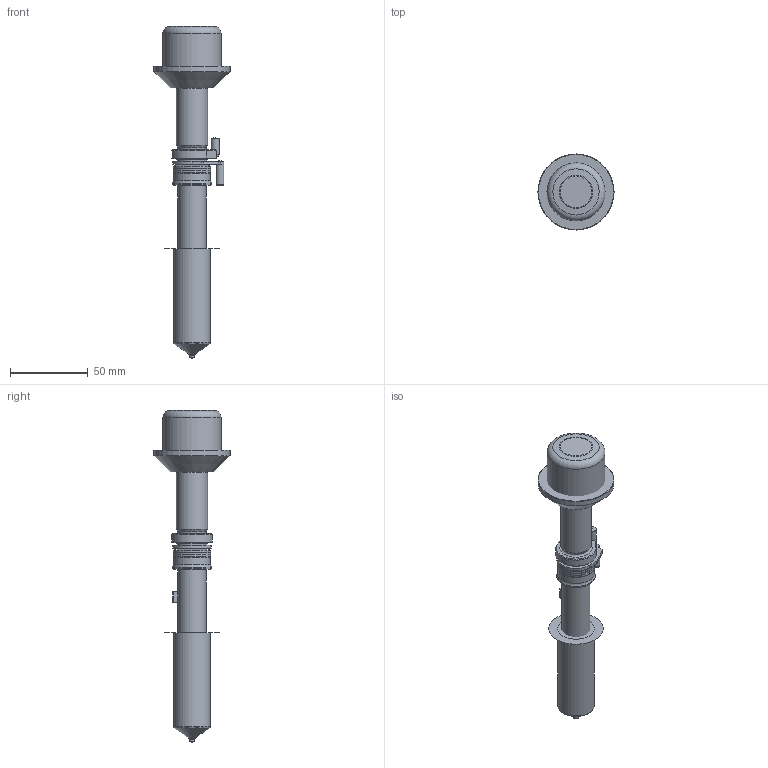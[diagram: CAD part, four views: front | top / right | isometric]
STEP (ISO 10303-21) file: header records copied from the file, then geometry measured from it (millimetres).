
FILE_DESCRIPTION(/* description */ (''),/* implementation_level */ '2;1');
FILE_NAME(/* name */ 'UH500 VG.stp',/* time_stamp */ '2021-12-24T16:18:54+08:00',/* author */ (''),/* organization */ (''),/* preprocessor_version */ 'ST-DEVELOPER v16',/* originating_system */ 'SIEMENS PLM Software NX 11.0',/* authorisation */ '');
FILE_SCHEMA (('AUTOMOTIVE_DESIGN { 1 0 10303 214 3 1 1 1 }'));
Length unit declared in the file: millimetre
Products named in the file (23): 3D_EXPORT_3D_ASSY_11314503_0_id119_x_t; 3D_EXPORT_3D_ASSY_11314503_0_id114_x_t; 3D_EXPORT_3D_ASSY_11314503_0_id109_x_t; 3D_EXPORT_3D_ASSY_11314503_0_id104_x_t; 3D_EXPORT_3D_ASSY_11314503_0_id99_x_t; 3D_EXPORT_3D_ASSY_11314503_0_id92_x_t; 3D_EXPORT_3D_ASSY_11314503_0_id87_x_t; 3D_EXPORT_3D_ASSY_11314503_0_id82_x_t; 3D_EXPORT_3D_ASSY_11314503_0_id77_x_t; 3D_EXPORT_3D_ASSY_11314503_0_id72_x_t; 3D_EXPORT_3D_ASSY_11314503_0_id67_x_t; 3D_EXPORT_3D_ASSY_11314503_0_id62_x_t; 3D_EXPORT_3D_ASSY_11314503_0_id55_x_t; 3D_EXPORT_3D_ASSY_11314503_0_id50_x_t; 3D_EXPORT_3D_ASSY_11314503_0_id45_x_t; 3D_EXPORT_3D_ASSY_11314503_0_id40_x_t; 3D_EXPORT_3D_ASSY_11314503_0_id31_x_t; 3D_EXPORT_3D_ASSY_11314503_0_id26_x_t; 3D_EXPORT_3D_ASSY_11314503_0_id21_x_t; 3D_EXPORT_3D_ASSY_11314503_0_id16_x_t; 3D_EXPORT_3D_ASSY_11314503_0_id11_x_t; 3D_EXPORT_3D_ASSY_11314503_0_id6_x_t; 3D_EXPORT_3D_ASSY_11314503_0_x_t
Assembly tree (26 placements, depth 2):
  3D_EXPORT_3D_ASSY_11314503_0_x_t
    3D_EXPORT_3D_ASSY_11314503_0_id6_x_t
    3D_EXPORT_3D_ASSY_11314503_0_id11_x_t
    3D_EXPORT_3D_ASSY_11314503_0_id16_x_t
    3D_EXPORT_3D_ASSY_11314503_0_id21_x_t
    3D_EXPORT_3D_ASSY_11314503_0_id26_x_t
    3D_EXPORT_3D_ASSY_11314503_0_id31_x_t  x3
    3D_EXPORT_3D_ASSY_11314503_0_id40_x_t
    3D_EXPORT_3D_ASSY_11314503_0_id45_x_t
    3D_EXPORT_3D_ASSY_11314503_0_id50_x_t
    3D_EXPORT_3D_ASSY_11314503_0_id55_x_t  x2
    3D_EXPORT_3D_ASSY_11314503_0_id62_x_t
    3D_EXPORT_3D_ASSY_11314503_0_id67_x_t
    3D_EXPORT_3D_ASSY_11314503_0_id72_x_t
    3D_EXPORT_3D_ASSY_11314503_0_id77_x_t
    3D_EXPORT_3D_ASSY_11314503_0_id82_x_t
    3D_EXPORT_3D_ASSY_11314503_0_id87_x_t
    3D_EXPORT_3D_ASSY_11314503_0_id92_x_t  x2
    3D_EXPORT_3D_ASSY_11314503_0_id99_x_t
    3D_EXPORT_3D_ASSY_11314503_0_id104_x_t
    3D_EXPORT_3D_ASSY_11314503_0_id109_x_t
    3D_EXPORT_3D_ASSY_11314503_0_id114_x_t
    3D_EXPORT_3D_ASSY_11314503_0_id119_x_t
Bounding box: 49 x 49 x 213.64 mm (x, y, z)
Volume: 137015.1 mm3; surface area: 49109 mm2
Topology: 26 solids, 26 shells, 349 faces, 727 edges, 450 vertices
Faces by surface type: plane 148, cylinder 112, cone 45, torus 40, sphere 4
Full cylindrical faces by diameter (mm): 1 x3, 1.2 x1, 1.7 x2, 2 x1, 2.985 x1, 3.2 x1, 3.205 x1, 4.027 x3, 5 x2, 5.5 x1, 5.65 x1, 6.895 x1, 7.4 x2, 7.5 x1, 8.944 x1, 9 x1, 11.5 x1, 11.86 x1, 12.3 x1, 12.494 x1, 12.5 x1, 12.66 x1, 12.7 x1, 12.715 x2, 12.735 x1, 12.76 x1, 13.005 x2, 13.23 x1, 13.725 x2, 16.307 x2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
Entity records: 10824 total; most frequent: CARTESIAN_POINT 1503, DIRECTION 1464, ORIENTED_EDGE 1058, AXIS2_PLACEMENT_3D 620, EDGE_CURVE 529, EDGE_LOOP 488, VERTEX_POINT 396, PRESENTATION_STYLE_ASSIGNMENT 342
